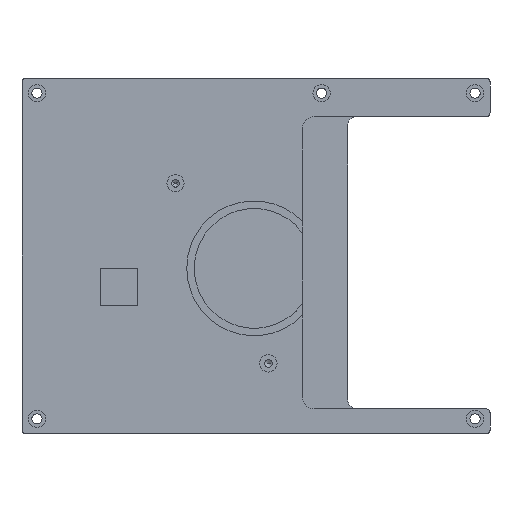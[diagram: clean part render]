
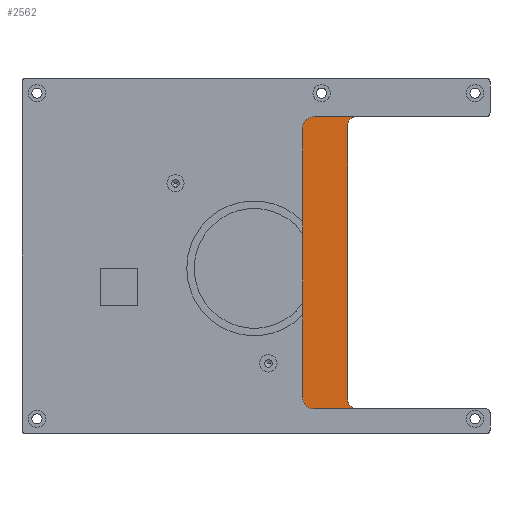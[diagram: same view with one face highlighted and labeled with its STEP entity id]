
A CAD part, front view. The second image highlights one B-rep face of the part: STEP entity #2562.
In plain terms, the highlighted planar face has unit normal (0, -1, 0).
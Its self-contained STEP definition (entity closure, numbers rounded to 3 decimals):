
#800=DIRECTION('',(0.,0.,-1.));
#801=VECTOR('',#800,72.095);
#802=CARTESIAN_POINT('',(12.5,8.5,34.248));
#803=LINE('',#802,#801);
#842=CARTESIAN_POINT('',(15.5,8.5,34.248));
#843=DIRECTION('',(0.,-1.,0.));
#844=DIRECTION('',(0.,0.,1.));
#845=AXIS2_PLACEMENT_3D('',#842,#843,#844);
#850=DIRECTION('',(-1.,0.,0.));
#851=VECTOR('',#850,11.5);
#852=CARTESIAN_POINT('',(27.,8.5,37.248));
#853=LINE('',#852,#851);
#857=DIRECTION('',(1.,0.,0.));
#858=VECTOR('',#857,11.5);
#859=CARTESIAN_POINT('',(15.5,8.5,-40.848));
#860=LINE('',#859,#858);
#864=CARTESIAN_POINT('',(15.5,8.5,-37.848));
#865=DIRECTION('',(0.,-1.,0.));
#866=DIRECTION('',(-1.,0.,0.));
#867=AXIS2_PLACEMENT_3D('',#864,#865,#866);
#916=CARTESIAN_POINT('',(27.,8.5,34.748));
#917=DIRECTION('',(0.,-1.,0.));
#918=DIRECTION('',(0.,0.,1.));
#919=AXIS2_PLACEMENT_3D('',#916,#917,#918);
#938=DIRECTION('',(0.,0.,-1.));
#939=VECTOR('',#938,73.095);
#940=CARTESIAN_POINT('',(24.5,8.5,34.748));
#941=LINE('',#940,#939);
#960=CARTESIAN_POINT('',(27.,8.5,-38.348));
#961=DIRECTION('',(0.,-1.,0.));
#962=DIRECTION('',(-1.,0.,0.));
#963=AXIS2_PLACEMENT_3D('',#960,#961,#962);
#1677=CARTESIAN_POINT('',(24.5,8.5,34.748));
#1678=CARTESIAN_POINT('',(24.5,8.5,-38.348));
#1679=VERTEX_POINT('',#1677);
#1680=VERTEX_POINT('',#1678);
#1681=CARTESIAN_POINT('',(27.,8.5,37.248));
#1682=VERTEX_POINT('',#1681);
#1683=CARTESIAN_POINT('',(27.,8.5,-40.848));
#1684=VERTEX_POINT('',#1683);
#1685=CARTESIAN_POINT('',(12.5,8.5,-37.848));
#1686=CARTESIAN_POINT('',(15.5,8.5,-40.848));
#1687=VERTEX_POINT('',#1685);
#1688=VERTEX_POINT('',#1686);
#1689=CARTESIAN_POINT('',(15.5,8.5,37.248));
#1690=CARTESIAN_POINT('',(12.5,8.5,34.248));
#1691=VERTEX_POINT('',#1689);
#1692=VERTEX_POINT('',#1690);
#2540=CARTESIAN_POINT('',(0.,8.5,0.));
#2541=DIRECTION('',(0.,-1.,0.));
#2542=DIRECTION('',(-1.,0.,0.));
#2543=AXIS2_PLACEMENT_3D('',#2540,#2541,#2542);
#2544=PLANE('',#2543);
#2545=ORIENTED_EDGE('',*,*,#2515,.F.);
#2547=ORIENTED_EDGE('',*,*,#2546,.F.);
#2549=ORIENTED_EDGE('',*,*,#2548,.F.);
#2551=ORIENTED_EDGE('',*,*,#2550,.T.);
#2553=ORIENTED_EDGE('',*,*,#2552,.T.);
#2555=ORIENTED_EDGE('',*,*,#2554,.T.);
#2557=ORIENTED_EDGE('',*,*,#2556,.F.);
#2559=ORIENTED_EDGE('',*,*,#2558,.F.);
#2560=EDGE_LOOP('',(#2545,#2547,#2549,#2551,#2553,#2555,#2557,#2559));
#2561=FACE_OUTER_BOUND('',#2560,.F.);
#2562=ADVANCED_FACE('',(#2561),#2544,.T.);
#846=CIRCLE('',#845,3.);
#868=CIRCLE('',#867,3.);
#920=CIRCLE('',#919,2.5);
#964=CIRCLE('',#963,2.5);
#2515=EDGE_CURVE('',#1692,#1687,#803,.T.);
#2546=EDGE_CURVE('',#1691,#1692,#846,.T.);
#2548=EDGE_CURVE('',#1682,#1691,#853,.T.);
#2550=EDGE_CURVE('',#1682,#1679,#920,.T.);
#2552=EDGE_CURVE('',#1679,#1680,#941,.T.);
#2554=EDGE_CURVE('',#1680,#1684,#964,.T.);
#2556=EDGE_CURVE('',#1688,#1684,#860,.T.);
#2558=EDGE_CURVE('',#1687,#1688,#868,.T.);
